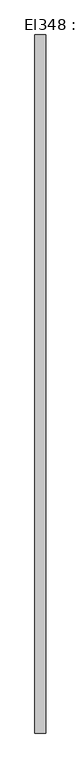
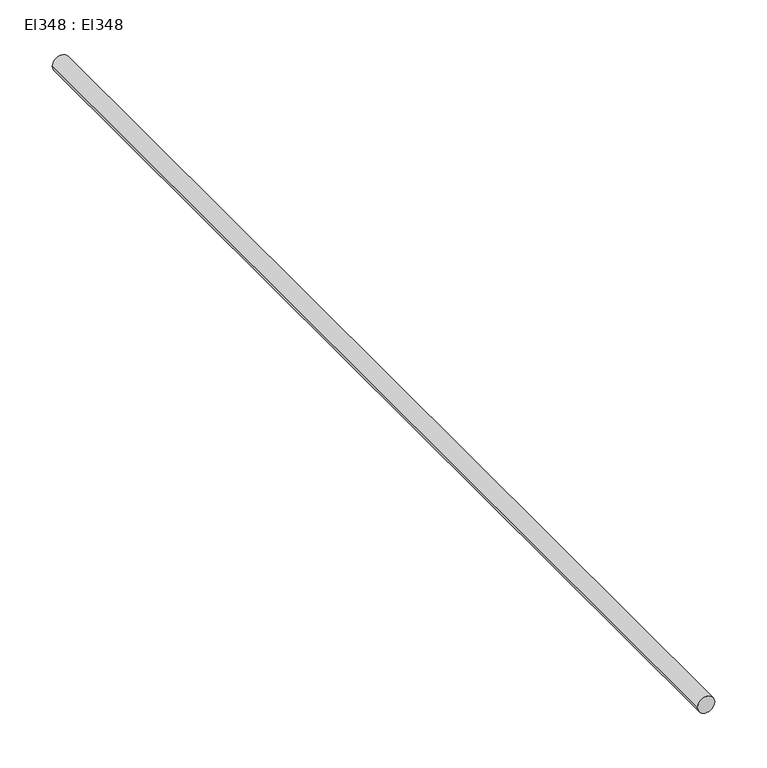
"""IFC4 building model written with IfcOpenShell, lengths in millimetres: cable carrier segment geometry, El348 : El348."""

from ifc_helpers import new_model, si_unit, point, frame, frame_2d, origin, place, context, project, spatial, circle_curve, trimmed, segment, composite_curve, outline, extrude, source, transform, mapped, element, save


def el348_el348_b3d76a52(model_context):
    return source(origin(), model_context, "Body", "SweptSolid", [
        extrude(outline(composite_curve([segment(trimmed(circle_curve(frame_2d((300.0, 12900.0)), 9.5), [point((300.0, 12890.5))], [point((300.0, 12909.5))], False, "CARTESIAN"), True, "CONTINUOUS"), segment(trimmed(circle_curve(frame_2d((300.0, 12900.0)), 9.5), [point((300.0, 12909.5))], [point((300.0, 12890.5))], False, "CARTESIAN"), True, "CONTINUOUS")], self_intersect=False)), frame((0.0, 10863.568, 0.0), z_axis=(0.0, 1.0, 0.0), x_axis=(0.0, 0.0, 1.0)), (0.0, 0.0, 1.0), 1233.06),
    ])


if __name__ == "__main__":
    model = new_model("IFC4")
    model_context = context("Model", 3, world=origin())
    ifc_project = project(units=[si_unit("LENGTHUNIT", "METRE", prefix="MILLI")], contexts=[model_context])
    site = spatial("IfcSite", under=ifc_project)
    building = spatial("IfcBuilding", under=site)
    placement = place(None, origin())
    el348_el348_shape = el348_el348_b3d76a52(model_context)
    element("IfcCableCarrierSegment", 1, ObjectType="El348 : El348", at=placement, inside=building, context=model_context, shape_type="MappedRepresentation", body=[
        mapped(el348_el348_shape, transform((0.0, 0.0, 0.0), x_axis=(1.0, 0.0, 0.0), y_axis=(0.0, 1.0, 0.0), z_axis=(0.0, 0.0, 1.0))),
    ])
    save(model, "model.ifc")
